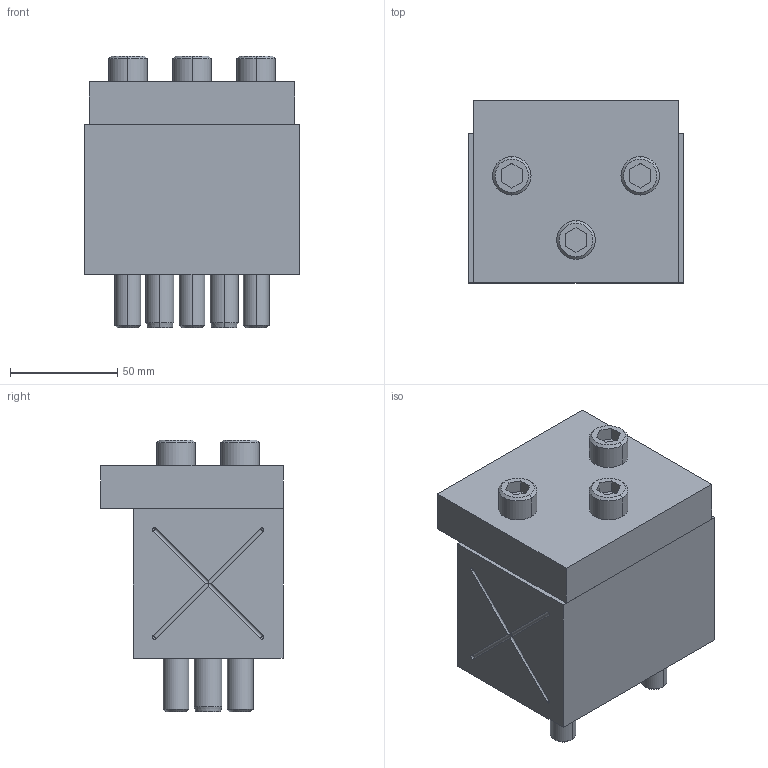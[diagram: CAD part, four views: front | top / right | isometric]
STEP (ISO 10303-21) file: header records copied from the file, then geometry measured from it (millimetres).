
FILE_DESCRIPTION((''),'2;1');
FILE_NAME('','2010-09-29T17:41:04+09:00',('misumi'),(''),'M/STEP i/f 1R2-14','CADmeister v5.1','');
FILE_SCHEMA(('AUTOMOTIVE_DESIGN'));
Length unit declared in the file: millimetre
Products named in the file (1): KEPNZ100-70-20
Bounding box: 100 x 85 x 127 mm (x, y, z)
Volume: 623708.8 mm3; surface area: 107281.5 mm2
Topology: 10 solids, 10 shells, 206 faces, 472 edges, 299 vertices
Faces by surface type: plane 86, cylinder 76, cone 32, revolution 12
Entity records: 8695 total; most frequent: CARTESIAN_POINT 1074, DIRECTION 1062, ORIENTED_EDGE 920, COLOUR_RGB 628, CURVE_STYLE 547, PRESENTATION_STYLE_ASSIGNMENT 537, OVER_RIDING_STYLED_ITEM 527, EDGE_CURVE 460
